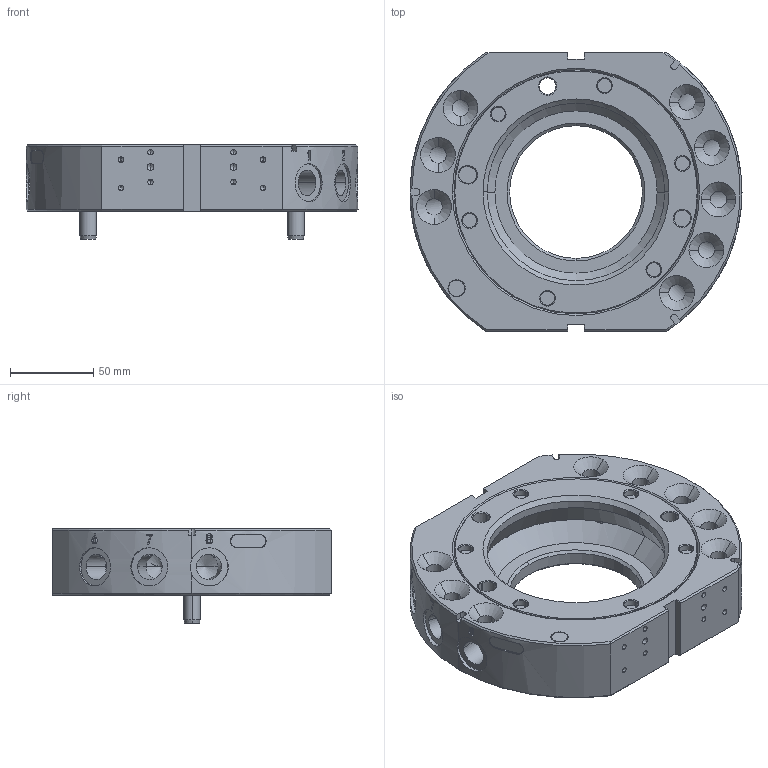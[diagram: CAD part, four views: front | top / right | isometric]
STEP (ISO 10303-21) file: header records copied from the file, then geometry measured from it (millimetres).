
FILE_DESCRIPTION (( 'STEP AP203' ), '1' );
FILE_NAME ('QCA-200G-D1.STEP', '2024-03-20T02:18:55', ( '微软用户' ), ( '微软中国' ), 'SwSTEP 2.0', 'SolidWorks 2018', '' );
FILE_SCHEMA (( 'CONFIG_CONTROL_DESIGN' ));
Length unit declared in the file: millimetre
Products named in the file (1): QCA-200G-D1
Bounding box: 200 x 168 x 57 mm (x, y, z)
Volume: 749635.1 mm3; surface area: 120251.3 mm2
Topology: 1 solids, 14 shells, 993 faces, 2413 edges, 1454 vertices
Faces by surface type: cone 392, cylinder 323, plane 236, bspline 42
Entity records: 43752 total; most frequent: CARTESIAN_POINT 21191, ORIENTED_EDGE 4682, DIRECTION 4590, EDGE_CURVE 2341, AXIS2_PLACEMENT_3D 1751, VERTEX_POINT 1454, EDGE_LOOP 1127, VECTOR 1088
